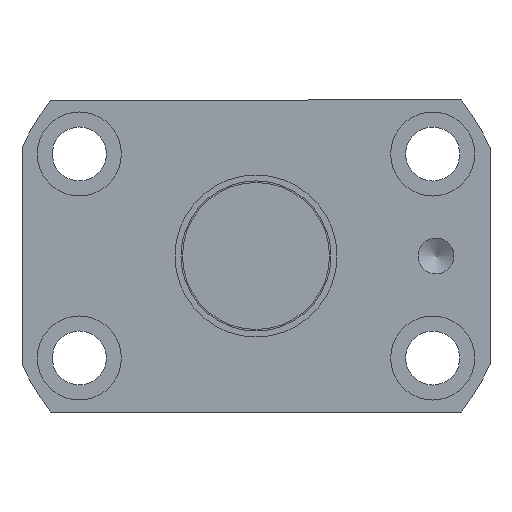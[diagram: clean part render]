
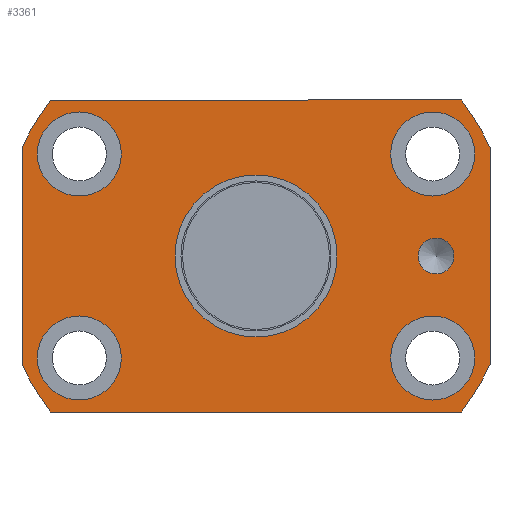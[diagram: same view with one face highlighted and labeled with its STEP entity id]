
A CAD part, left-side view. The second image highlights one B-rep face of the part: STEP entity #3361.
In plain terms, the highlighted planar face has unit normal (-1, 0, 0).
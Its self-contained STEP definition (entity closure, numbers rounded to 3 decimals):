
#375=CARTESIAN_POINT('',(752.468,-27.,0.));
#376=VERTEX_POINT('',#375);
#377=CARTESIAN_POINT('',(752.468,-30.0,0.));
#378=DIRECTION('',(1.0,0.0,0.0));
#379=DIRECTION('',(0.0,1.0,0.0));
#380=AXIS2_PLACEMENT_3D('',#377,#378,#379);
#381=CIRCLE('',#380,3.);
#382=EDGE_CURVE('',#376,#376,#381,.T.);
#516=CARTESIAN_POINT('',(752.468,36.445,-17.));
#517=VERTEX_POINT('',#516);
#518=CARTESIAN_POINT('',(752.468,29.445,-17.));
#519=DIRECTION('',(1.0,0.0,0.0));
#520=DIRECTION('',(0.0,1.0,0.0));
#521=AXIS2_PLACEMENT_3D('',#518,#519,#520);
#522=CIRCLE('',#521,7.);
#523=EDGE_CURVE('',#517,#517,#522,.T.);
#584=CARTESIAN_POINT('',(752.468,-22.445,17.));
#585=VERTEX_POINT('',#584);
#586=CARTESIAN_POINT('',(752.468,-29.445,17.));
#587=DIRECTION('',(1.0,0.0,0.0));
#588=DIRECTION('',(0.0,1.0,0.0));
#589=AXIS2_PLACEMENT_3D('',#586,#587,#588);
#590=CIRCLE('',#589,7.);
#591=EDGE_CURVE('',#585,#585,#590,.T.);
#652=CARTESIAN_POINT('',(752.468,36.445,17.));
#653=VERTEX_POINT('',#652);
#654=CARTESIAN_POINT('',(752.468,29.445,17.));
#655=DIRECTION('',(1.0,0.0,0.0));
#656=DIRECTION('',(0.0,1.0,0.0));
#657=AXIS2_PLACEMENT_3D('',#654,#655,#656);
#658=CIRCLE('',#657,7.);
#659=EDGE_CURVE('',#653,#653,#658,.T.);
#720=CARTESIAN_POINT('',(752.468,-22.445,-17.));
#721=VERTEX_POINT('',#720);
#722=CARTESIAN_POINT('',(752.468,-29.445,-17.));
#723=DIRECTION('',(1.0,0.0,0.0));
#724=DIRECTION('',(0.0,1.0,0.0));
#725=AXIS2_PLACEMENT_3D('',#722,#723,#724);
#726=CIRCLE('',#725,7.);
#727=EDGE_CURVE('',#721,#721,#726,.T.);
#3060=CARTESIAN_POINT('',(752.468,-34.249,26.));
#3061=VERTEX_POINT('',#3060);
#3068=CARTESIAN_POINT('',(752.468,-39.0,18.111));
#3069=VERTEX_POINT('',#3068);
#3070=CARTESIAN_POINT('',(752.468,0.,0.0));
#3071=DIRECTION('',(1.0,0.0,0.0));
#3072=DIRECTION('',(0.0,1.0,0.0));
#3073=AXIS2_PLACEMENT_3D('',#3070,#3071,#3072);
#3074=CIRCLE('',#3073,43.0);
#3075=EDGE_CURVE('',#3061,#3069,#3074,.T.);
#3092=CARTESIAN_POINT('',(752.468,34.249,26.0));
#3093=VERTEX_POINT('',#3092);
#3100=CARTESIAN_POINT('',(752.468,34.249,26.0));
#3101=DIRECTION('',(0.0,-1.0,0.0));
#3102=VECTOR('',#3101,68.498);
#3103=LINE('',#3100,#3102);
#3104=EDGE_CURVE('',#3093,#3061,#3103,.T.);
#3116=CARTESIAN_POINT('',(752.468,39.0,18.111));
#3117=VERTEX_POINT('',#3116);
#3124=CARTESIAN_POINT('',(752.468,0.,0.0));
#3125=DIRECTION('',(1.0,0.0,0.0));
#3126=DIRECTION('',(0.0,1.0,0.0));
#3127=AXIS2_PLACEMENT_3D('',#3124,#3125,#3126);
#3128=CIRCLE('',#3127,43.0);
#3129=EDGE_CURVE('',#3117,#3093,#3128,.T.);
#3141=CARTESIAN_POINT('',(752.468,39.,-18.111));
#3142=VERTEX_POINT('',#3141);
#3149=CARTESIAN_POINT('',(752.468,39.,-18.111));
#3150=DIRECTION('',(0.0,0.0,1.0));
#3151=VECTOR('',#3150,36.222);
#3152=LINE('',#3149,#3151);
#3153=EDGE_CURVE('',#3142,#3117,#3152,.T.);
#3165=CARTESIAN_POINT('',(752.468,-34.249,-26.));
#3166=VERTEX_POINT('',#3165);
#3173=CARTESIAN_POINT('',(752.468,34.249,-26.0));
#3174=VERTEX_POINT('',#3173);
#3175=CARTESIAN_POINT('',(752.468,-34.249,-26.));
#3176=DIRECTION('',(0.0,1.0,0.0));
#3177=VECTOR('',#3176,68.498);
#3178=LINE('',#3175,#3177);
#3179=EDGE_CURVE('',#3166,#3174,#3178,.T.);
#3197=CARTESIAN_POINT('',(752.468,0.,0.0));
#3198=DIRECTION('',(1.0,0.0,0.0));
#3199=DIRECTION('',(0.0,1.0,0.0));
#3200=AXIS2_PLACEMENT_3D('',#3197,#3198,#3199);
#3201=CIRCLE('',#3200,43.0);
#3202=EDGE_CURVE('',#3174,#3142,#3201,.T.);
#3214=CARTESIAN_POINT('',(752.468,-39.0,-18.111));
#3215=VERTEX_POINT('',#3214);
#3222=CARTESIAN_POINT('',(752.468,0.,0.0));
#3223=DIRECTION('',(1.0,0.0,0.0));
#3224=DIRECTION('',(0.0,1.0,0.0));
#3225=AXIS2_PLACEMENT_3D('',#3222,#3223,#3224);
#3226=CIRCLE('',#3225,43.0);
#3227=EDGE_CURVE('',#3215,#3166,#3226,.T.);
#3240=CARTESIAN_POINT('',(752.468,-39.0,18.111));
#3241=DIRECTION('',(0.0,0.0,-1.0));
#3242=VECTOR('',#3241,36.222);
#3243=LINE('',#3240,#3242);
#3244=EDGE_CURVE('',#3069,#3215,#3243,.T.);
#3255=CARTESIAN_POINT('',(752.468,13.5,0.0));
#3256=VERTEX_POINT('',#3255);
#3257=CARTESIAN_POINT('',(752.468,0.,0.0));
#3258=DIRECTION('',(1.0,0.0,0.0));
#3259=DIRECTION('',(0.0,1.0,0.0));
#3260=AXIS2_PLACEMENT_3D('',#3257,#3258,#3259);
#3261=CIRCLE('',#3260,13.5);
#3262=EDGE_CURVE('',#3256,#3256,#3261,.T.);
#3328=CARTESIAN_POINT('',(752.468,19.75,0.0));
#3329=DIRECTION('',(-1.0,0.0,0.0));
#3330=DIRECTION('',(0.0,0.0,1.0));
#3331=AXIS2_PLACEMENT_3D('',#3328,#3329,#3330);
#3332=PLANE('',#3331);
#3333=ORIENTED_EDGE('',*,*,#3179,.F.);
#3334=ORIENTED_EDGE('',*,*,#3227,.F.);
#3335=ORIENTED_EDGE('',*,*,#3244,.F.);
#3336=ORIENTED_EDGE('',*,*,#3075,.F.);
#3337=ORIENTED_EDGE('',*,*,#3104,.F.);
#3338=ORIENTED_EDGE('',*,*,#3129,.F.);
#3339=ORIENTED_EDGE('',*,*,#3153,.F.);
#3340=ORIENTED_EDGE('',*,*,#3202,.F.);
#3341=EDGE_LOOP('',(#3333,#3334,#3335,#3336,#3337,#3338,#3339,#3340));
#3342=FACE_OUTER_BOUND('',#3341,.T.);
#3343=ORIENTED_EDGE('',*,*,#382,.T.);
#3344=EDGE_LOOP('',(#3343));
#3345=FACE_BOUND('',#3344,.T.);
#3346=ORIENTED_EDGE('',*,*,#523,.T.);
#3347=EDGE_LOOP('',(#3346));
#3348=FACE_BOUND('',#3347,.T.);
#3349=ORIENTED_EDGE('',*,*,#591,.T.);
#3350=EDGE_LOOP('',(#3349));
#3351=FACE_BOUND('',#3350,.T.);
#3352=ORIENTED_EDGE('',*,*,#659,.T.);
#3353=EDGE_LOOP('',(#3352));
#3354=FACE_BOUND('',#3353,.T.);
#3355=ORIENTED_EDGE('',*,*,#727,.T.);
#3356=EDGE_LOOP('',(#3355));
#3357=FACE_BOUND('',#3356,.T.);
#3358=ORIENTED_EDGE('',*,*,#3262,.T.);
#3359=EDGE_LOOP('',(#3358));
#3360=FACE_BOUND('',#3359,.T.);
#3361=ADVANCED_FACE('',(#3342,#3345,#3348,#3351,#3354,#3357,#3360),#3332,.T.);
